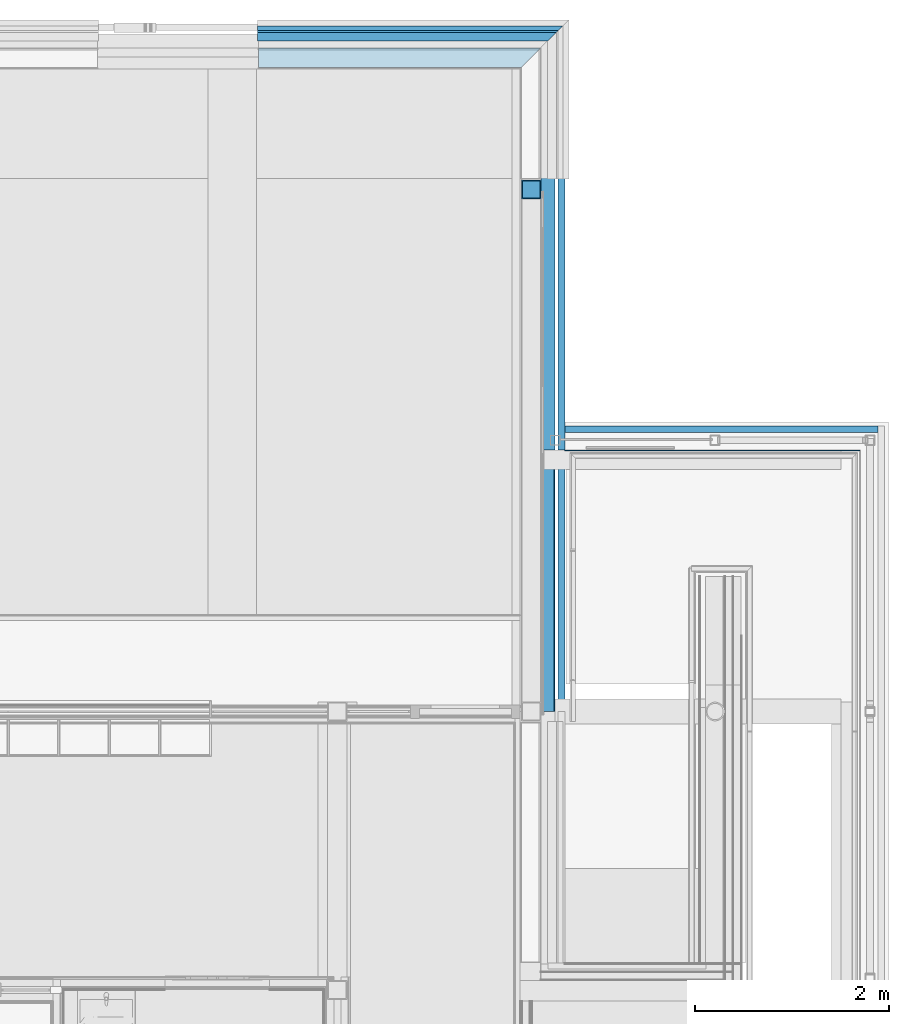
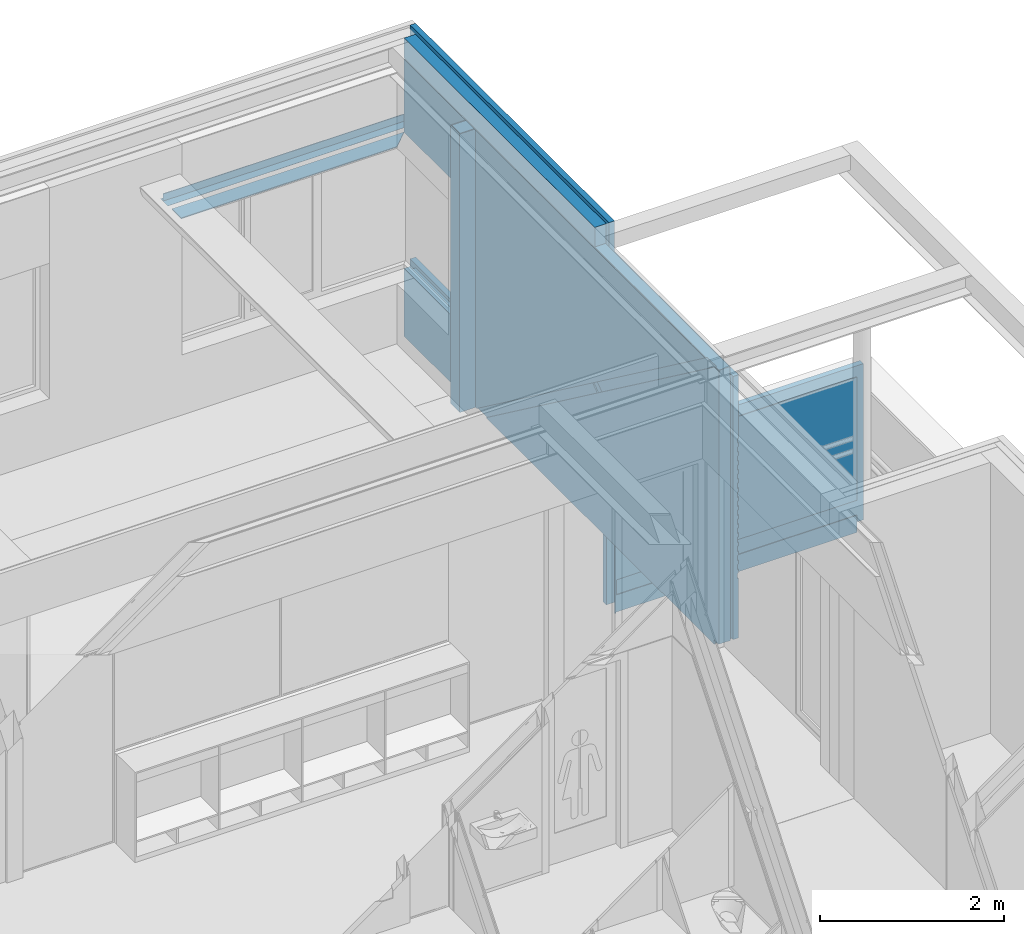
# One storey, part 95 of 137: 9 building element parts, 1 opening, 5 elements without a shape of their own.
"""IFC2X3 building model written with IfcOpenShell, lengths in millimetres."""

from ifc_helpers import new_model, entity, si_unit, converted_unit, derived_unit, money_unit, direction, frame, origin_with_axes, place, context, subcontext, project, spatial, faceted_brep, material, type_object, element, aggregate, save


model = new_model("IFC2X3")

# Units and contexts
model_context = context("Model", 3, precision=0.01, world=origin_with_axes(), true_north=direction((0.0, 1.0)))
body_context = subcontext(model_context, "Body", "Model", "MODEL_VIEW")
ifc_project = project(units=[si_unit("LENGTHUNIT", "METRE", prefix="MILLI"), si_unit("AREAUNIT", "SQUARE_METRE"), si_unit("VOLUMEUNIT", "CUBIC_METRE"), converted_unit("PLANEANGLEUNIT", "DEGREE", entity("IfcPlaneAngleMeasure", 0.0174532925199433), si_unit("PLANEANGLEUNIT", "RADIAN"), dimensions=[0, 0, 0, 0, 0, 0, 0]), money_unit("EUR"), converted_unit("TIMEUNIT", "Year", entity("IfcTimeMeasure", 31556926.0), si_unit("TIMEUNIT", "SECOND"), dimensions=[0, 0, 1, 0, 0, 0, 0]), si_unit("MASSUNIT", "GRAM", prefix="KILO"), si_unit("THERMODYNAMICTEMPERATUREUNIT", "DEGREE_CELSIUS"), si_unit("LUMINOUSINTENSITYUNIT", "LUMEN"), si_unit("ENERGYUNIT", "JOULE", prefix="MEGA"), derived_unit("THERMALCONDUCTANCEUNIT", [(si_unit("POWERUNIT", "WATT"), 1), (si_unit("LENGTHUNIT", "METRE"), -1), (si_unit("THERMODYNAMICTEMPERATUREUNIT", "KELVIN"), -1)]), derived_unit("SPECIFICHEATCAPACITYUNIT", [(si_unit("ENERGYUNIT", "JOULE"), 1), (si_unit("MASSUNIT", "GRAM", prefix="KILO"), -1), (si_unit("THERMODYNAMICTEMPERATUREUNIT", "KELVIN"), -1)]), derived_unit("MASSDENSITYUNIT", [(si_unit("MASSUNIT", "GRAM", prefix="KILO"), 1), (si_unit("VOLUMEUNIT", "CUBIC_METRE"), -1)])], contexts=[model_context])

# Site, building, storey
site_placement = place(None, origin_with_axes())
site = spatial("IfcSite", under=ifc_project, at=site_placement, Name="Site", CompositionType="ELEMENT")
building_placement = place(site_placement, origin_with_axes())
building = spatial("IfcBuilding", under=site, at=building_placement, Name="Naam gebouw", CompositionType="ELEMENT")
storey_placement = place(building_placement, frame((0.0, 0.0, 3960.0), z_axis=(0.0, 0.0, 1.0), x_axis=(1.0, 0.0, 0.0)))
storey = spatial("IfcBuildingStorey", under=building, at=storey_placement, Name="1e verdieping", CompositionType="ELEMENT", Elevation=3960.0)

# Wall, opening, building element parts
wall_type_1 = type_object("IfcWallType", Name="21 Buitenwand spouwmuur 464", PredefinedType="NOTDEFINED")
wall_1_placement = place(storey_placement, frame((26600.0, 29175.0, -100.0000000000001), z_axis=(0.0, 0.0, 1.0), x_axis=(3.263030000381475e-10, -1.0, 0.0)))
wall_1 = element("IfcWall", 1, at=wall_1_placement, inside=storey, type_object=wall_type_1, Name="21_Wand-x")
opening_placement = place(wall_1_placement, frame((669.4999999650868, 0.0, 899.9999999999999), z_axis=(0.0, 0.0, 1.0), x_axis=(1.0, 0.0, 0.0)))
element("IfcOpeningElement", 2, at=opening_placement, cuts=wall_1, Name="_Merk BC1", context=body_context, shape_type="Brep", body=[
    faceted_brep([(674.5000000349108, -4.385505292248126e-07, 1810.0), (-669.4999999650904, 0.0, 1810.0), (-669.4999999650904, 0.0, 2810.0), (674.5000000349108, -4.385505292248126e-07, 2810.0), (674.5000000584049, 71.99999956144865, 1810.0), (-741.4999999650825, 72.00000002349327, 1810.0), (-920.5000022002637, 251.0000023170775, 1810.0), (-920.5000022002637, 251.0000023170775, -44.99999999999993), (-741.4999999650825, 72.00000002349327, -44.99999999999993), (-741.4999999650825, 72.00000002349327, 0.0), (-454.4999999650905, -215.0000000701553, 0.0), (-454.4999999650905, -215.0000000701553, 2810.0), (674.4999999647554, -215.0000004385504, 2810.0), (674.5000000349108, -4.385505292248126e-07, 0.0), (674.4999999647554, -215.0000004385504, 0.0), (674.5000000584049, 71.99999956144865, 0.0), (684.5000000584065, 71.9999995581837, 1810.0), (684.5000001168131, 251.0000017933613, 1810.0), (684.5000001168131, 251.0000017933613, -44.99999999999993), (684.5000000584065, 71.9999995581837, -44.99999999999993)], [[[0, 1, 2, 3]], [[1, 0, 4, 5]], [[2, 1, 5, 6, 7, 8, 9, 10, 11]], [[3, 2, 11, 12]], [[13, 0, 3, 12, 14]], [[0, 13, 15, 4]], [[5, 4, 16, 17, 6]], [[17, 18, 7, 6]], [[19, 8, 7, 18]], [[15, 9, 8, 19, 16, 4]], [[13, 14, 10, 9, 15]], [[10, 14, 12, 11]], [[16, 19, 18, 17]]]),
])
ifc_material_1 = material(Name="Steen - Baksteen")
building_element_part_1_placement = place(wall_1_placement, origin_with_axes())
building_element_part_1 = element("IfcBuildingElementPart", 3, at=building_element_part_1_placement, material=ifc_material_1, Name="Steen - Baksteen", context=body_context, shape_type="Brep", body=[
    faceted_brep([(1354.000000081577, 250.0000282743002, 970.0000070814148), (6850.000152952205, 250.0000264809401, 970.0000070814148), (6850.000152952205, 250.0000264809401, 920.0000357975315), (1354.000000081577, 250.0000282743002, 920.0000357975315), (1354.000000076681, 235.0000282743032, 970.0000070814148), (6850.000152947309, 235.0000264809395, 970.0000070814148), (6850.000152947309, 235.0000264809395, 2710.0), (6850.000152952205, 249.9999977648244, 2710.0), (6850.000152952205, 249.9999977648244, 3555.0), (6850.000152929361, 179.9999977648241, 3555.0), (6850.000152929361, 179.9999977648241, 59.99999999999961), (6850.000152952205, 249.9999977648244, 59.99999999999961), (6850.000152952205, 249.9999977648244, 850.0000371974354), (6850.000152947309, 235.0000264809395, 850.0000371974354), (6850.000152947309, 235.0000264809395, 920.0000357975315), (6850.000152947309, 235.0000264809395, 1040.000005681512), (6850.000152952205, 250.0000264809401, 1040.000005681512), (6850.000152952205, 250.0000264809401, 1090.000060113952), (6850.000152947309, 235.0000264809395, 1090.000060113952), (6850.000152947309, 235.0000264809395, 1160.000030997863), (6850.000152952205, 250.0000264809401, 1160.000030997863), (6850.000152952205, 250.0000264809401, 1210.000002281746), (6850.000152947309, 235.0000264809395, 1210.000002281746), (6850.000152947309, 235.0000264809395, 1280.000000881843), (6850.000152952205, 250.0000264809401, 1280.000000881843), (6850.000152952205, 250.0000264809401, 1330.000055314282), (6850.000152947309, 235.0000264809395, 1330.000055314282), (6850.000152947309, 235.0000264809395, 1400.000026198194), (6850.000152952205, 250.0000264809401, 1400.000026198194), (6850.000152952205, 250.0000264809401, 1449.999997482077), (6850.000152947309, 235.0000264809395, 1449.999997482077), (6850.000152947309, 235.0000264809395, 1519.999996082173), (6850.000152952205, 250.0000264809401, 1519.999996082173), (6850.000152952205, 250.0000264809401, 1570.000050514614), (6850.000152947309, 235.0000264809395, 1570.000050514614), (6850.000152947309, 235.0000264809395, 1640.000049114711), (6850.000152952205, 250.0000264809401, 1640.000049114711), (6850.000152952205, 250.0000264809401, 1689.999992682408), (6850.000152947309, 235.0000264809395, 1689.999992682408), (6850.000152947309, 235.0000264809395, 1759.999991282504), (6850.000152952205, 250.0000264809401, 1759.999991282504), (6850.000152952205, 250.0000264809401, 1810.000073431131), (6850.000152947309, 235.0000264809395, 1810.000073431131), (6850.000152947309, 235.0000264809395, 1880.000044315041), (6850.000152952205, 250.0000264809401, 1880.000044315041), (6850.000152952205, 250.0000264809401, 1930.000015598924), (6850.000152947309, 235.0000264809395, 1930.000015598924), (6850.000152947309, 235.0000264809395, 1999.999986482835), (6850.000152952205, 250.0000264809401, 1999.999986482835), (6850.000152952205, 250.0000264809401, 2050.000068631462), (6850.000152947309, 235.0000264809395, 2050.000068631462), (6850.000152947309, 235.0000264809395, 2120.000039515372), (6850.000152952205, 250.0000264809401, 2120.000039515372), (6850.000152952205, 250.0000264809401, 2170.000010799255), (6850.000152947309, 235.0000264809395, 2170.000010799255), (6850.000152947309, 235.0000264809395, 2239.999981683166), (6850.000152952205, 250.0000264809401, 2239.999981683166), (6850.000152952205, 250.0000264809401, 2290.000063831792), (6850.000152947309, 235.0000264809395, 2290.000063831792), (6850.000152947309, 235.0000264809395, 2360.000062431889), (6850.000152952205, 250.0000264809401, 2360.000062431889), (6850.000152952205, 250.0000264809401, 2410.000005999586), (6850.000152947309, 235.0000264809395, 2410.000005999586), (6850.000152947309, 235.0000264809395, 2480.000004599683), (6850.000152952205, 250.0000264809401, 2480.000004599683), (6850.000152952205, 250.0000264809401, 2530.000059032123), (6850.000152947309, 235.0000264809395, 2530.000059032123), (6850.000152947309, 235.0000264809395, 2600.00005763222), (6850.000152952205, 250.0000264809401, 2600.00005763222), (6850.000152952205, 250.0000264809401, 2650.000001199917), (6850.000152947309, 235.0000264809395, 2650.000001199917), (1354.000000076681, 235.0000282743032, 920.0000357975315), (1354.000000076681, 235.0000282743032, 2650.000001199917), (1354.000000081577, 250.0000282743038, 2650.000001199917), (1354.000000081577, 250.0000282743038, 2600.00005763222), (1354.000000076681, 235.0000282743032, 2600.00005763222), (1354.000000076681, 235.0000282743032, 2530.000059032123), (1354.000000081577, 250.0000282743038, 2530.000059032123), (1354.000000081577, 250.0000282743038, 2480.000004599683), (1354.000000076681, 235.0000282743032, 2480.000004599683), (1354.000000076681, 235.0000282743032, 2410.000005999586), (1354.000000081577, 250.0000282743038, 2410.000005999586), (1354.000000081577, 250.0000282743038, 2360.000062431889), (1354.000000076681, 235.0000282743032, 2360.000062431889), (1354.000000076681, 235.0000282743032, 2290.000063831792), (1354.000000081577, 250.0000282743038, 2290.000063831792), (1354.000000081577, 250.0000282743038, 2239.999981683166), (1354.000000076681, 235.0000282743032, 2239.999981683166), (1354.000000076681, 235.0000282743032, 2170.000010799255), (1354.000000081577, 250.0000282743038, 2170.000010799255), (1354.000000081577, 250.0000282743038, 2120.000039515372), (1354.000000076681, 235.0000282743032, 2120.000039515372), (1354.000000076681, 235.0000282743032, 2050.000068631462), (1354.000000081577, 250.0000282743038, 2050.000068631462), (1354.000000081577, 250.0000282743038, 1999.999986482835), (1354.000000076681, 235.0000282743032, 1999.999986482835), (1354.000000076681, 235.0000282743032, 1930.000015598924), (1354.000000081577, 250.0000282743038, 1930.000015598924), (1354.000000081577, 250.0000282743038, 1880.000044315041), (1354.000000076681, 235.0000282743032, 1880.000044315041), (1354.000000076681, 235.0000282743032, 1810.000073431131), (1354.000000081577, 250.0000282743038, 1810.000073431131), (1354.000000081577, 250.0000282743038, 1759.999991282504), (1354.000000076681, 235.0000282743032, 1759.999991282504), (1354.000000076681, 235.0000282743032, 1689.999992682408), (1354.000000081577, 250.0000282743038, 1689.999992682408), (1354.000000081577, 250.0000282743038, 1640.000049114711), (1354.000000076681, 235.0000282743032, 1640.000049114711), (1354.000000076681, 235.0000282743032, 1570.000050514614), (1354.000000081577, 250.0000282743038, 1570.000050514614), (1354.000000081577, 250.0000282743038, 1519.999996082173), (1354.000000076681, 235.0000282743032, 1519.999996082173), (1354.000000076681, 235.0000282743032, 1449.999997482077), (1354.000000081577, 250.0000282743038, 1449.999997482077), (1354.000000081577, 250.0000282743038, 1400.000026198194), (1354.000000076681, 235.0000282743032, 1400.000026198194), (1354.000000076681, 235.0000282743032, 1330.000055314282), (1354.000000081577, 250.0000282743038, 1330.000055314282), (1354.000000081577, 250.0000282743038, 1280.000000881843), (1354.000000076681, 235.0000282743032, 1280.000000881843), (1354.000000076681, 235.0000282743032, 1210.000002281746), (1354.000000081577, 250.0000282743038, 1210.000002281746), (1354.000000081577, 250.0000282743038, 1160.000030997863), (1354.000000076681, 235.0000282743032, 1160.000030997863), (1354.000000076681, 235.0000282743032, 1090.000060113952), (1354.000000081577, 250.0000282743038, 1090.000060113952), (1354.000000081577, 250.0000282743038, 1040.000005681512), (1354.000000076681, 235.0000282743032, 1040.000005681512), (1354.000000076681, 235.0000282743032, 855.0), (1354.000000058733, 179.9999995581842, 855.0), (1354.000000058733, 179.9999995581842, 2710.0), (1354.000000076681, 235.0000282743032, 2710.0), (1354.000000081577, 249.9999798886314, 2710.0), (-179.9999999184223, 249.9999803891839, 2710.0), (-179.9999999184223, 250.0000000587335, 3960.0), (4150.023786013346, 249.9999986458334, 3960.0), (4150.023786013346, 249.9999986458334, 3700.0), (4150.023786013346, 249.9999789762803, 3555.0), (4150.023785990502, 179.9999986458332, 3555.0), (4150.023785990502, 179.9999986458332, 3700.0), (4150.023785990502, 179.9999986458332, 3960.0), (-179.9999999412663, 180.0000000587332, 3960.0), (-179.999999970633, 180.0000000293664, 2710.0), (-179.999999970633, 180.0000000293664, 855.0), (-179.9999999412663, 180.0000000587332, 0.0), (3970.023780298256, 179.9999987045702, 0.0), (3970.023780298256, 179.9999987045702, 825.0000000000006), (4150.023780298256, 179.9999986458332, 825.0000000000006), (4150.023780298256, 179.9999986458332, 0.0), (6750.02376028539, 179.9999977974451, 0.0), (6750.02376028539, 179.9999977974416, 59.99999999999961), (6750.023761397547, 249.9999977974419, 59.99999999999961), (1354.000000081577, 249.9999798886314, 850.0000371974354), (6750.023761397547, 249.9999977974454, 0.0), (4150.023780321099, 249.9999986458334, 0.0), (4150.023780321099, 249.9999986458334, 825.0000000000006), (3970.023780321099, 249.9999987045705, 825.0000000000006), (3970.023780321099, 249.9999987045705, 0.0), (-179.9999999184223, 250.0000000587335, 0.0), (-179.9999999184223, 249.9999803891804, 855.0), (1354.000000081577, 249.9999798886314, 855.0), (1354.000000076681, 235.0000282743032, 850.0000371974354)], [[[0, 1, 2, 3]], [[1, 0, 4, 5]], [[6, 7, 8, 9, 10, 11, 12, 13, 14, 2, 1, 5, 15, 16, 17, 18, 19, 20, 21, 22, 23, 24, 25, 26, 27, 28, 29, 30, 31, 32, 33, 34, 35, 36, 37, 38, 39, 40, 41, 42, 43, 44, 45, 46, 47, 48, 49, 50, 51, 52, 53, 54, 55, 56, 57, 58, 59, 60, 61, 62, 63, 64, 65, 66, 67, 68, 69, 70]], [[71, 3, 2, 14]], [[72, 73, 74, 75, 76, 77, 78, 79, 80, 81, 82, 83, 84, 85, 86, 87, 88, 89, 90, 91, 92, 93, 94, 95, 96, 97, 98, 99, 100, 101, 102, 103, 104, 105, 106, 107, 108, 109, 110, 111, 112, 113, 114, 115, 116, 117, 118, 119, 120, 121, 122, 123, 124, 125, 126, 127, 4, 0, 3, 71, 128, 129, 130, 131]], [[4, 127, 15, 5]], [[131, 132, 7, 6]], [[7, 132, 133, 134, 135, 136, 137, 8]], [[9, 8, 137, 138]], [[9, 138, 139, 140, 141, 142, 130, 129, 143, 144, 145, 146, 147, 148, 149, 150, 10]], [[150, 151, 11, 10]], [[152, 12, 11, 151, 153, 154, 155, 156, 157, 158, 159, 160]], [[12, 152, 161, 13]], [[128, 71, 14, 13, 161]], [[127, 126, 16, 15]], [[125, 17, 16, 126]], [[17, 125, 124, 18]], [[124, 123, 19, 18]], [[123, 122, 20, 19]], [[121, 21, 20, 122]], [[21, 121, 120, 22]], [[120, 119, 23, 22]], [[119, 118, 24, 23]], [[117, 25, 24, 118]], [[25, 117, 116, 26]], [[116, 115, 27, 26]], [[115, 114, 28, 27]], [[113, 29, 28, 114]], [[29, 113, 112, 30]], [[112, 111, 31, 30]], [[111, 110, 32, 31]], [[109, 33, 32, 110]], [[33, 109, 108, 34]], [[108, 107, 35, 34]], [[107, 106, 36, 35]], [[105, 37, 36, 106]], [[37, 105, 104, 38]], [[104, 103, 39, 38]], [[103, 102, 40, 39]], [[101, 41, 40, 102]], [[41, 101, 100, 42]], [[100, 99, 43, 42]], [[99, 98, 44, 43]], [[97, 45, 44, 98]], [[45, 97, 96, 46]], [[96, 95, 47, 46]], [[95, 94, 48, 47]], [[93, 49, 48, 94]], [[49, 93, 92, 50]], [[92, 91, 51, 50]], [[91, 90, 52, 51]], [[89, 53, 52, 90]], [[53, 89, 88, 54]], [[88, 87, 55, 54]], [[87, 86, 56, 55]], [[85, 57, 56, 86]], [[57, 85, 84, 58]], [[84, 83, 59, 58]], [[83, 82, 60, 59]], [[81, 61, 60, 82]], [[61, 81, 80, 62]], [[80, 79, 63, 62]], [[79, 78, 64, 63]], [[77, 65, 64, 78]], [[65, 77, 76, 66]], [[76, 75, 67, 66]], [[75, 74, 68, 67]], [[73, 69, 68, 74]], [[69, 73, 72, 70]], [[72, 131, 6, 70]], [[128, 160, 159, 143, 129]], [[132, 131, 130, 142, 133]], [[141, 134, 133, 142]], [[141, 140, 135, 134]], [[140, 139, 136, 135]], [[138, 137, 136, 139]], [[158, 144, 143, 159]], [[144, 158, 157, 145]], [[146, 145, 157, 156]], [[147, 146, 156, 155]], [[148, 147, 155, 154]], [[154, 153, 149, 148]], [[149, 153, 151, 150]], [[152, 160, 128, 161]]]),
])
ifc_material_2 = material(Name="Isolatie - Steenwol zacht")
building_element_part_2_placement = place(wall_1_placement, origin_with_axes())
building_element_part_2 = element("IfcBuildingElementPart", 4, at=building_element_part_2_placement, material=ifc_material_2, Name="Isolatie - Steenwol zacht", context=body_context, shape_type="Brep", body=[
    faceted_brep([(4150.023785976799, 137.9999690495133, 3700.0), (4150.023785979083, 144.999998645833, 3700.0), (4150.023785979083, 144.999998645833, 3960.0), (4150.023785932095, 0.9999986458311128, 3960.0), (4150.023785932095, 0.9999986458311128, 3700.0), (4150.023785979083, 144.999998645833, 3555.0), (4150.023785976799, 137.9999690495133, 3555.0), (6850.000152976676, 144.999997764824, 3555.0), (6850.000152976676, 144.999997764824, 59.99999999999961), (6750.023759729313, 144.999997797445, 59.99999999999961), (6750.023759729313, 144.999997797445, 0.0), (4100.023780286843, 144.9999986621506, 0.0), (4100.023780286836, 144.9999986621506, 825.0000000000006), (4000.023780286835, 144.9999986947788, 825.0000000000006), (4000.023780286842, 144.9999986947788, 0.0), (4.731504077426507e-08, 144.9999999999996, 0.0), (4.731504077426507e-08, 144.9999999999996, 855.0), (1354.000000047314, 144.9999995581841, 855.0), (1354.000000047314, 144.9999995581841, 2710.0), (4.731504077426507e-08, 144.9999999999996, 2710.0), (4.731504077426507e-08, 144.9999999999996, 3960.0), (3.268496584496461e-10, 0.9999999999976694, 3960.0), (6567.225941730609, 0.9999978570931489, 3695.000000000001), (6573.968366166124, 0.9999978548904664, 3700.0), (3.268496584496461e-10, 0.9999999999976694, 3695.000000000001), (6850.000152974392, 137.9999681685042, 3700.0), (6573.968366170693, 14.99999785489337, 3700.0), (6775.425869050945, 14.9999977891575, 3700.0), (6775.42586904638, 0.9999977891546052, 3700.000000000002), (6850.000152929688, 0.9999977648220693, 3700.0), (6850.000152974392, 137.9999681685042, 3555.0), (6850.000152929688, 0.9999977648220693, 3695.000000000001), (6850.000152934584, 15.99999776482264, 3695.000000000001), (6850.000152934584, 15.99999776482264, 3683.0), (6850.000152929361, -2.033495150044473e-06, 3683.0), (6850.000152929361, 4.094829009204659e-05, 59.99999999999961), (6750.023757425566, 4.253670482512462e-05, 59.99999999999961), (6750.023757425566, 4.253670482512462e-05, 0.0), (6750.023757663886, 14.99999779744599, 0.0), (6750.023757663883, 14.99999779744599, 18.83752026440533), (6750.023757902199, 29.99999779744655, 18.83752009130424), (6750.023757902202, 29.99999779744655, 0.0), (4000.023780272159, 99.9999986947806, 0.0), (4100.02378027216, 99.99999866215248, 0.0), (6573.968366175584, 29.99999785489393, 0.0), (6573.968366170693, 14.99999785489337, 0.0), (1786.031786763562, -5.827871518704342e-07, 0.0), (1786.031786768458, 14.99999941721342, 0.0), (1584.574283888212, 14.99999948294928, 0.0), (1584.574283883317, -5.170512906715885e-07, 0.0), (0.0, 0.0, 0.0), (4100.023780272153, 99.99999866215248, 825.0000000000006), (4000.023780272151, 99.9999986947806, 825.0000000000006), (2.349409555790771e-08, 71.99999999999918, 899.9999999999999), (2.349409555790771e-08, 71.99999999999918, 855.0), (0.0, 0.0, 899.9999999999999), (1354.000000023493, 71.9999995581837, 855.0), (1354.000000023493, 71.9999995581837, 2710.0), (1344.000000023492, 71.99999956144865, 2710.0), (2.349409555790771e-08, 71.99999999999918, 2710.0), (0.0, 0.0, 2710.0), (0.0, 0.0, 3683.0), (5.222489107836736e-09, 15.99999999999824, 3683.0), (5.222489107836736e-09, 15.99999999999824, 3695.000000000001), (6567.225941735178, 14.99999785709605, 3695.000000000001), (6768.683444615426, 14.99999779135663, 3695.000000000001), (1591.316708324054, 15.99999948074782, 3695.000000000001), (1591.316708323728, 14.99999948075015, 3695.000000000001), (1792.774211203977, 14.99999941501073, 3695.000000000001), (1792.774211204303, 15.9999994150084, 3695.000000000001), (6768.683444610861, 0.999997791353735, 3695.000000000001), (1808.956029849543, 15.99999940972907, 3683.0), (1808.956029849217, 14.9999994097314, 3683.0), (1607.498526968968, 14.99999947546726, 3683.0), (1607.498526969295, 15.99999947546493, 3683.0), (6551.044123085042, -2.137625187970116e-06, 3683.0), (6551.044123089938, 14.99999786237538, 3683.0), (6752.501625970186, 14.99999779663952, 3683.0), (6752.501625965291, -2.203361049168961e-06, 3683.0), (4180.000076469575, 14.99999863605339, 1775.302276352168), (4280.728827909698, 14.99999860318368, 1849.999999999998), (4180.000076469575, 14.99999863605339, 1924.69772364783), (1545.739547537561, 14.99999949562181, 3878.194239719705), (1545.739547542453, 29.99999949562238, 3878.194239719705), (1474.260452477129, 29.99999951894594, 3781.805760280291), (4095.023780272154, 99.99999866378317, 730.0000000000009), (4095.023780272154, 99.99999866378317, 820.0000000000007), (4005.02378027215, 99.9999986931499, 820.0000000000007), (4005.02378027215, 99.9999986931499, 730.0000000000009), (1474.260452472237, 14.99999951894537, 3781.805760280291), (4079.271325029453, 14.9999986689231, 1849.999999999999), (1343.999999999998, -4.385505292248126e-07, 2710.0), (1343.999999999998, -4.385505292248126e-07, 899.9999999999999), (1344.000000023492, 71.99999956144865, 899.9999999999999), (4095.023780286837, 144.9999986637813, 820.0000000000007), (4095.023780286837, 144.9999986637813, 730.0000000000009), (4005.023780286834, 144.9999986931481, 820.0000000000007), (4005.023780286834, 144.9999986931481, 730.0000000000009)], [[[0, 1, 2, 3, 4]], [[5, 1, 0, 6]], [[5, 7, 8, 9, 10, 11, 12, 13, 14, 15, 16, 17, 18, 19, 20, 2, 1]], [[3, 2, 20, 21]], [[22, 23, 4, 3, 21, 24]], [[25, 0, 4, 23, 26, 27, 28, 29]], [[0, 25, 30, 6]], [[7, 5, 6, 30]], [[30, 25, 29, 31, 32, 33, 34, 35, 8, 7]], [[9, 8, 35, 36]], [[37, 38, 39, 40, 41, 10, 9, 36]], [[14, 42, 43, 11, 10, 41, 44, 45, 38, 37, 46, 47, 48, 49, 50, 15]], [[51, 12, 11, 43]], [[12, 51, 52, 13]], [[14, 13, 52, 42]], [[53, 54, 16, 15, 50, 55]], [[56, 17, 16, 54]], [[57, 18, 17, 56]], [[58, 59, 19, 18, 57]], [[19, 59, 60, 61, 62, 63, 24, 21, 20]], [[64, 26, 23, 22]], [[65, 64, 22, 24, 63, 66, 67, 68, 69, 32, 31, 70]], [[65, 27, 26, 64]], [[28, 27, 65, 70]], [[70, 31, 29, 28]], [[71, 33, 32, 69]], [[72, 73, 74, 62, 61, 75, 76, 77, 78, 34, 33, 71]], [[37, 36, 35, 34, 78, 46]], [[39, 38, 45, 79, 80]], [[81, 72, 71, 69, 68, 82, 83, 40, 39, 80]], [[40, 83, 84, 44, 41]], [[52, 51, 43, 42], [85, 86, 87, 88]], [[89, 67, 66, 74, 73, 90, 79, 45, 44, 84]], [[79, 47, 46, 78, 77, 80]], [[47, 79, 90, 48]], [[48, 90, 81, 76, 75, 49]], [[91, 92, 55, 50, 49, 75, 61, 60]], [[56, 54, 53, 93, 58, 57]], [[93, 53, 55, 92]], [[91, 60, 59, 58]], [[62, 74, 66, 63]], [[67, 89, 82, 68]], [[72, 81, 90, 73]], [[76, 81, 80, 77]], [[82, 89, 84, 83]], [[94, 86, 85, 95]], [[96, 87, 86, 94]], [[97, 88, 87, 96]], [[95, 85, 88, 97]], [[93, 92, 91, 58]], [[97, 96, 94, 95]]]),
    faceted_brep([(4095.023780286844, 144.9999986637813, 725.000000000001), (4095.023780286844, 144.9999986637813, 0.0), (4005.023780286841, 144.9999986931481, 0.0), (4005.023780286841, 144.9999986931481, 725.000000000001), (4095.023780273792, 104.9999986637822, 725.000000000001), (4095.023780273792, 104.9999986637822, 0.0), (4005.023780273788, 104.9999986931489, 0.0), (4005.023780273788, 104.9999986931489, 725.000000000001)], [[[0, 1, 2, 3]], [[1, 0, 4, 5]], [[6, 2, 1, 5]], [[7, 3, 2, 6]], [[4, 0, 3, 7]], [[4, 7, 6, 5]]]),
])
aggregate(wall_1, [building_element_part_1, building_element_part_2])

# Column, building element parts
column_type = type_object("IfcColumnType", Name="200X200X10 200 x 200", PredefinedType="COLUMN")
column_placement = place(storey_placement, frame((26500.00000195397, 27715.0, -100.0000000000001), z_axis=(0.0, 0.0, 1.0), x_axis=(1.0, 0.0, 0.0)))
column = element("IfcColumn", 5, at=column_placement, inside=storey, type_object=column_type, Name="28_Kolom-x", ObjectType="COLUMN")
ifc_material_3 = material(Name="Beton gewapend C")
building_element_part_3_placement = place(column_placement, origin_with_axes())
building_element_part_3 = element("IfcBuildingElementPart", 6, at=building_element_part_3_placement, material=ifc_material_3, Name="Beton gewapend C", context=body_context, shape_type="Brep", body=[
    faceted_brep([(-89.99999999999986, 89.99999999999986, 3683.0), (89.99999999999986, 89.99999999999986, 3683.0), (89.99999999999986, 89.99999999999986, 0.0), (-89.99999999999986, 89.99999999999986, 0.0), (89.99999999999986, -89.99999999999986, 3683.0), (-89.99999999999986, -89.99999999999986, 3683.0), (89.99999999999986, -89.99999999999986, 0.0), (-89.99999999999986, -89.99999999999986, 0.0)], [[[0, 1, 2, 3]], [[4, 1, 0, 5]], [[1, 4, 6, 2]], [[2, 6, 7, 3]], [[5, 0, 3, 7]], [[4, 5, 7, 6]]]),
    faceted_brep([(89.99999999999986, -89.99999999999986, 3695.000000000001), (89.99999999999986, 89.99999999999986, 3695.000000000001), (89.99999999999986, 89.99999999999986, 3699.999999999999), (89.99999999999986, -89.99999999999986, 3699.999999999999), (-89.99999999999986, 89.99999999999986, 3695.000000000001), (-89.99999999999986, -89.99999999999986, 3695.000000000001), (-89.99999999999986, 89.99999999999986, 3699.999999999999), (-89.99999999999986, -89.99999999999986, 3699.999999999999)], [[[0, 1, 2, 3]], [[4, 1, 0, 5]], [[1, 4, 6, 2]], [[2, 6, 7, 3]], [[5, 0, 3, 7]], [[4, 5, 7, 6]]]),
])
ifc_material_4 = material(Name="Metaal - Staal C")
building_element_part_4_placement = place(column_placement, origin_with_axes())
building_element_part_4 = element("IfcBuildingElementPart", 7, at=building_element_part_4_placement, material=ifc_material_4, Name="Metaal - Staal C", context=body_context, shape_type="Brep", body=[
    faceted_brep([(-100.0000000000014, -100.0000000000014, 0.0), (100.0000000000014, -100.0000000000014, 0.0), (100.0000000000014, -100.0000000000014, 3699.999999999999), (-100.0000000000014, -100.0000000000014, 3699.999999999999), (-100.0000000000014, 100.0000000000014, 0.0), (100.0000000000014, 100.0000000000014, 0.0), (-89.99999999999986, -89.99999999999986, 0.0), (89.99999999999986, -89.99999999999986, 0.0), (89.99999999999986, 89.99999999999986, 0.0), (-89.99999999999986, 89.99999999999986, 0.0), (100.0000000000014, 100.0000000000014, 3699.999999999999), (-100.0000000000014, 100.0000000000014, 3699.999999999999), (-89.99999999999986, -89.99999999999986, 3699.999999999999), (-89.99999999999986, 89.99999999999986, 3699.999999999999), (89.99999999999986, 89.99999999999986, 3699.999999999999), (89.99999999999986, -89.99999999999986, 3699.999999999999)], [[[0, 1, 2, 3]], [[0, 4, 5, 1], [6, 7, 8, 9]], [[1, 5, 10, 2]], [[3, 2, 10, 11], [12, 13, 14, 15]], [[4, 0, 3, 11]], [[5, 4, 11, 10]], [[7, 6, 12, 15]], [[8, 7, 15, 14]], [[9, 8, 14, 13]], [[6, 9, 13, 12]]]),
])
aggregate(column, [building_element_part_3, building_element_part_4])

# Wall, building element parts
wall_type_2 = type_object("IfcWallType", Name="21 Buitenwand metselwerk - metselwerk 258", PredefinedType="NOTDEFINED")
wall_2_placement = place(storey_placement, frame((30149.99999999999, 25274.97621976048, -1349.999991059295), z_axis=(0.0, 0.0, 1.0), x_axis=(-1.0, 0.0, 0.0)))
wall_2 = element("IfcWall", 8, at=wall_2_placement, inside=storey, type_object=wall_type_2, Name="21_Wand-x")
ifc_material_5 = material(Name="Rockpanel RAL 1001")
building_element_part_5_placement = place(wall_2_placement, origin_with_axes())
building_element_part_5 = element("IfcBuildingElementPart", 9, at=building_element_part_5_placement, material=ifc_material_5, Name="Rockpanel RAL 1001", context=body_context, shape_type="Brep", body=[
    faceted_brep([(257.9999999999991, 257.9999999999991, 11.9999910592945), (257.9999999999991, 250.0, 11.9999910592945), (257.9999999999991, 250.0, 240.0496818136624), (257.9999999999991, 257.9999999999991, 240.0496818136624), (3289.999999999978, 250.0, 11.9999910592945), (3289.999999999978, 257.9999999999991, 11.9999910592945), (3289.999999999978, 250.0, 0.0), (3299.999999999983, 250.0, 0.0), (3299.999999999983, 250.0, 2074.999991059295), (257.9999999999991, 250.0, 2074.999991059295), (257.9999999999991, 250.0, 440.0496818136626), (3280.989815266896, 250.0, 440.0496818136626), (3280.989815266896, 250.0, 240.0496818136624), (3280.989815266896, 257.9999999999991, 240.0496818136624), (3280.989815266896, 257.9999999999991, 440.0496818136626), (257.9999999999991, 257.9999999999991, 440.0496818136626), (257.9999999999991, 257.9999999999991, 2074.999991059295), (3299.999999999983, 257.9999999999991, 2074.999991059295), (3299.999999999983, 257.9999999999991, 0.0), (3289.999999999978, 257.9999999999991, 0.0)], [[[0, 1, 2, 3]], [[4, 1, 0, 5]], [[4, 6, 7, 8, 9, 10, 11, 12, 2, 1]], [[13, 3, 2, 12]], [[5, 0, 3, 13, 14, 15, 16, 17, 18, 19]], [[6, 4, 5, 19]], [[6, 19, 18, 7]], [[17, 8, 7, 18]], [[8, 17, 16, 9]], [[16, 15, 10, 9]], [[14, 11, 10, 15]], [[13, 12, 11, 14]]]),
])
building_element_part_6_placement = place(wall_2_placement, origin_with_axes())
building_element_part_6 = element("IfcBuildingElementPart", 10, at=building_element_part_6_placement, material=ifc_material_1, Name="Steen - Baksteen", context=body_context, shape_type="Brep", body=[
    faceted_brep([(3299.999999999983, 0.0, 2074.999991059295), (70.00000000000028, 0.0, 2074.999991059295), (70.00000000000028, 0.0, 0.0), (3299.999999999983, 0.0, 0.0), (3299.999999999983, 70.00000000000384, 2074.999991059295), (70.00000000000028, 70.00000000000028, 2074.999991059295), (70.00000000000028, 70.00000000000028, 0.0), (3299.999999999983, 70.00000000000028, 0.0)], [[[0, 1, 2, 3]], [[0, 4, 5, 1]], [[6, 2, 1, 5]], [[7, 3, 2, 6]], [[4, 0, 3, 7]], [[4, 7, 6, 5]]]),
])
aggregate(wall_2, [building_element_part_5, building_element_part_6])

# Beam, building element parts
beam_type_1 = type_object("IfcBeamType", Name="41 Latei/geveldrager 158 x 112", PredefinedType="BEAM")
beam_1_placement = place(storey_placement, frame((23674.99942456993, 29355.0, 2610.0), z_axis=(0.0, 0.0, 1.0), x_axis=(0.0, -1.0, 0.0)))
beam_1 = element("IfcBeam", 11, at=beam_1_placement, inside=storey, type_object=beam_type_1, Name="_Regenwaterafvoer-x", ObjectType="BEAM")
building_element_part_7_placement = place(beam_1_placement, origin_with_axes())
building_element_part_7 = element("IfcBuildingElementPart", 12, at=building_element_part_7_placement, material=ifc_material_4, Name="Metaal - Staal C", context=body_context, shape_type="Brep", body=[
    faceted_brep([(-50.00000000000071, 3155.000575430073, 6.55651533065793e-07), (-50.00000000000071, 3155.000575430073, -3.000000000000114), (-50.00000000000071, 0.0, -3.000000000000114), (-50.00000000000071, 0.0, 6.55651533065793e-07), (-5.9603877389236e-08, 3105.000575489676, 6.55651533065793e-07), (-5.9603877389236e-08, 3105.000575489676, 99.3417707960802), (16.54654975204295, 3088.454025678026, 108.8949262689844), (18.04655007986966, 3086.954025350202, 106.2968498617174), (3.000000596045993, 3102.000574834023, 96.99999988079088), (3.000000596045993, 3102.000574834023, 6.55651533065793e-07), (3.000000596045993, 3102.000574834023, -3.000000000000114), (3.000000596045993, 0.0, -3.000000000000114), (3.000000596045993, 0.0, 6.55651533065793e-07), (3.000000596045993, 0.0, 96.99999988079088), (18.04655007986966, 0.0, 106.2968498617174), (16.54654975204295, 0.0, 108.8949262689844), (-5.9603877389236e-08, 0.0, 99.3417707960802), (-5.9603877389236e-08, 0.0, 6.55651533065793e-07)], [[[0, 1, 2, 3]], [[0, 4, 5, 6, 7, 8, 9, 10, 1]], [[1, 10, 11, 2]], [[3, 2, 11, 12, 13, 14, 15, 16, 17]], [[4, 0, 3, 17]], [[5, 4, 17, 16]], [[6, 5, 16, 15]], [[7, 6, 15, 14]], [[8, 7, 14, 13]], [[9, 8, 13, 12]], [[10, 9, 12, 11]]]),
])
building_element_part_8_placement = place(beam_1_placement, origin_with_axes())
building_element_part_8 = element("IfcBuildingElementPart", 13, at=building_element_part_8_placement, material=ifc_material_4, Name="Metaal - Staal C", context=body_context, shape_type="Brep", body=[
    faceted_brep([(3.000000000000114, 3102.000575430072, -3.000000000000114), (108.0000000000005, 2997.000575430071, -3.000000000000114), (108.0000000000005, 0.0, -3.000000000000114), (3.000000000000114, 0.0, -3.000000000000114), (3.000000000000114, 3102.000575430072, 0.0), (108.0000000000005, 2997.000575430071, 0.0), (108.0000000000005, 0.0, 0.0), (3.000000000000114, 0.0, 0.0)], [[[0, 1, 2, 3]], [[0, 4, 5, 1]], [[1, 5, 6, 2]], [[3, 2, 6, 7]], [[4, 0, 3, 7]], [[5, 4, 7, 6]]]),
])
aggregate(beam_1, [building_element_part_7, building_element_part_8])

# Beam, building element part
beam_type_2 = type_object("IfcBeamType", Name="31 HSB boven kozijnen 214 x 1000", PredefinedType="BEAM")
beam_2_placement = place(storey_placement, frame((23684.99942456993, 28961.0, 2600.000000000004), z_axis=(0.0, 0.0, 1.0), x_axis=(0.0, -1.0, 0.0)))
beam_2 = element("IfcBeam", 14, at=beam_2_placement, inside=storey, type_object=beam_type_2, Name="28_Balk-x", ObjectType="BEAM")
ifc_material_6 = material(Name="Gipsplaat")
building_element_part_9_placement = place(beam_2_placement, origin_with_axes())
building_element_part_9 = element("IfcBuildingElementPart", 15, at=building_element_part_9_placement, material=ifc_material_6, Name="Gipsplaat", context=body_context, shape_type="Brep", body=[
    faceted_brep([(-214.0000025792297, 2915.00057809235, 12.00000596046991), (-214.0000025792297, 2915.00057809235, 0.0), (-214.0000025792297, 0.0, 0.0), (-214.0000025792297, 0.0, 12.00000596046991), (-11.99999661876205, 2713.000572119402, 12.00000596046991), (-11.99999661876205, 2713.000572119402, 0.0), (-11.99999661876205, 0.0, 0.0), (-11.99999661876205, 0.0, 12.00000596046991)], [[[0, 1, 2, 3]], [[0, 4, 5, 1]], [[1, 5, 6, 2]], [[3, 2, 6, 7]], [[4, 0, 3, 7]], [[5, 4, 7, 6]]]),
])
aggregate(beam_2, [building_element_part_9])

save(model, "model.ifc")
